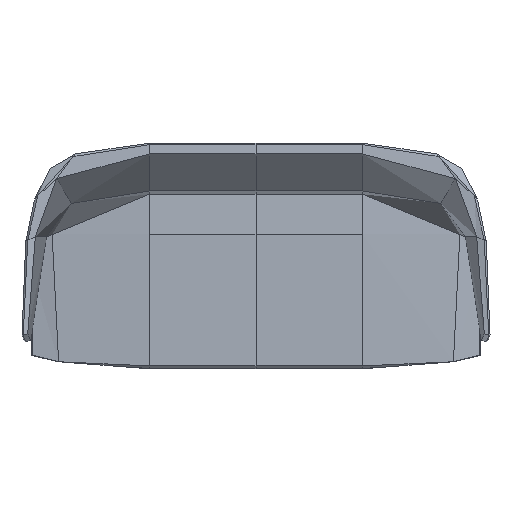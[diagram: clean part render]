
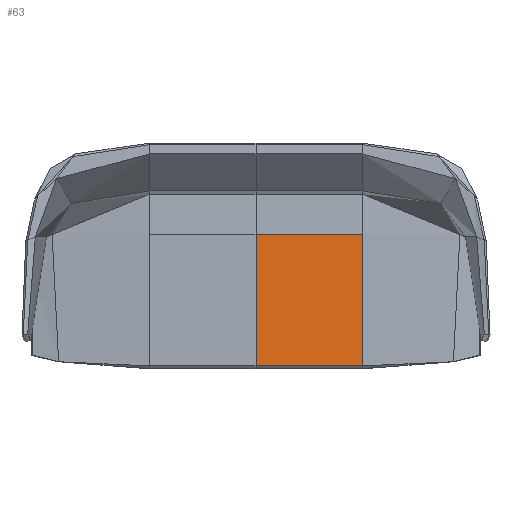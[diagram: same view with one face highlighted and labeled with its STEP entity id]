
A CAD part, top view. The second image highlights one B-rep face of the part: STEP entity #63.
In plain terms, the highlighted free-form (B-spline) face has degree [1, 3] with [2, 14] control points.
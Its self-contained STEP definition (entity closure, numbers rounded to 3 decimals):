
#63=ADVANCED_FACE('',(#185),#1702,.T.);
#185=FACE_OUTER_BOUND('',#307,.T.);
#307=EDGE_LOOP('',(#489,#490,#491,#492));
#489=ORIENTED_EDGE('',*,*,#944,.T.);
#490=ORIENTED_EDGE('',*,*,#947,.T.);
#491=ORIENTED_EDGE('',*,*,#946,.F.);
#492=ORIENTED_EDGE('',*,*,#905,.F.);
#905=EDGE_CURVE('',#1447,#1456,#1178,.T.);
#944=EDGE_CURVE('',#1447,#1476,#1388,.T.);
#946=EDGE_CURVE('',#1456,#1477,#1390,.T.);
#947=EDGE_CURVE('',#1476,#1477,#1391,.T.);
#1178=(
BOUNDED_CURVE()
B_SPLINE_CURVE(3,(#8262,#8263,#8264,#8265,#8266,#8267,#8268,#8269,#8270,
#8271,#8272,#8273,#8274,#8275,#8276,#8277,#8278,#8279,#8280,#8281,#8282,
#8283,#8284,#8285,#8286,#8287,#8288,#8289),.UNSPECIFIED.,.F.,.F.)
B_SPLINE_CURVE_WITH_KNOTS((4,3,3,3,3,3,3,3,3,4),(-3.,-2.938,-2.875,-2.75,
-2.5,-2.,-1.5,-1.,-0.5,0.),.UNSPECIFIED.)
CURVE()
GEOMETRIC_REPRESENTATION_ITEM()
RATIONAL_B_SPLINE_CURVE((1.,1.,1.,1.,1.,1.,
1.,1.,1.,1.,1.,
1.,1.,1.,1.,1.,1.,1.,
1.,1.,1.,1.,
1.,1.,1.,1.,
1.,1.))
REPRESENTATION_ITEM('')
);
#1388=B_SPLINE_CURVE_WITH_KNOTS('',1,(#9053,#9054),.UNSPECIFIED.,.F.,.F.,
(2,2),(0.,340.),.UNSPECIFIED.);
#1390=B_SPLINE_CURVE_WITH_KNOTS('',1,(#9061,#9062),.UNSPECIFIED.,.F.,.F.,
(2,2),(0.,340.),.UNSPECIFIED.);
#1391=B_SPLINE_CURVE_WITH_KNOTS('',3,(#9063,#9064,#9065,#9066,#9067,#9068,
#9069,#9070,#9071,#9072,#9073,#9074,#9075,#9076),.UNSPECIFIED.,.F.,.F.,
(4,2,2,1,1,1,1,1,1,4),(286.233,286.295,286.358,
286.483,286.733,287.233,287.733,288.233,
288.733,289.233),.UNSPECIFIED.);
#1447=VERTEX_POINT('',#8045);
#1456=VERTEX_POINT('',#8054);
#1476=VERTEX_POINT('',#8074);
#1477=VERTEX_POINT('',#8075);
#1702=B_SPLINE_SURFACE_WITH_KNOTS('',1,3,((#4900,#4901,#4902,#4903,#4904,
#4905,#4906,#4907,#4908,#4909,#4910,#4911,#4912,#4913),(#4914,#4915,#4916,
#4917,#4918,#4919,#4920,#4921,#4922,#4923,#4924,#4925,#4926,#4927)),
 .UNSPECIFIED.,.F.,.F.,.F.,(2,2),(4,2,2,1,1,1,1,1,1,4),(0.,340.),(286.233,
286.295,286.358,286.483,286.733,287.233,
287.733,288.233,288.733,289.233),
 .UNSPECIFIED.);
#4900=CARTESIAN_POINT('',(340.,69.271,380.111));
#4901=CARTESIAN_POINT('',(340.,66.606,380.33));
#4902=CARTESIAN_POINT('',(340.,63.95,380.546));
#4903=CARTESIAN_POINT('',(340.,58.645,380.974));
#4904=CARTESIAN_POINT('',(340.,55.997,381.185));
#4905=CARTESIAN_POINT('',(340.,48.051,381.814));
#4906=CARTESIAN_POINT('',(340.,32.16,383.048));
#4907=CARTESIAN_POINT('',(340.,-5.614,385.807));
#4908=CARTESIAN_POINT('',(340.,-65.507,389.689));
#4909=CARTESIAN_POINT('',(340.,-159.501,395.15));
#4910=CARTESIAN_POINT('',(340.,-251.303,400.39));
#4911=CARTESIAN_POINT('',(340.,-316.603,404.385));
#4912=CARTESIAN_POINT('',(340.,-342.297,401.719));
#4913=CARTESIAN_POINT('',(340.,-350.641,397.929));
#4914=CARTESIAN_POINT('',(0.,69.271,380.111));
#4915=CARTESIAN_POINT('',(0.,66.606,380.33));
#4916=CARTESIAN_POINT('',(0.,63.95,380.546));
#4917=CARTESIAN_POINT('',(0.,58.645,380.974));
#4918=CARTESIAN_POINT('',(0.,55.997,381.185));
#4919=CARTESIAN_POINT('',(0.,48.051,381.814));
#4920=CARTESIAN_POINT('',(0.,32.16,383.048));
#4921=CARTESIAN_POINT('',(0.,-5.614,385.807));
#4922=CARTESIAN_POINT('',(0.,-65.507,389.689));
#4923=CARTESIAN_POINT('',(0.,-159.501,395.15));
#4924=CARTESIAN_POINT('',(0.,-251.303,400.39));
#4925=CARTESIAN_POINT('',(0.,-316.603,404.385));
#4926=CARTESIAN_POINT('',(0.,-342.297,401.719));
#4927=CARTESIAN_POINT('',(0.,-350.641,397.929));
#8045=CARTESIAN_POINT('',(340.,69.271,380.111));
#8054=CARTESIAN_POINT('',(340.,-350.641,397.929));
#8074=CARTESIAN_POINT('',(0.,69.271,380.111));
#8075=CARTESIAN_POINT('',(0.,-350.641,397.929));
#8262=CARTESIAN_POINT('',(340.,69.271,380.111));
#8263=CARTESIAN_POINT('',(340.,66.606,380.33));
#8264=CARTESIAN_POINT('',(340.,63.95,380.546));
#8265=CARTESIAN_POINT('',(340.,61.297,380.76));
#8266=CARTESIAN_POINT('',(340.,58.645,380.974));
#8267=CARTESIAN_POINT('',(340.,55.997,381.185));
#8268=CARTESIAN_POINT('',(340.,53.348,381.395));
#8269=CARTESIAN_POINT('',(340.,48.051,381.814));
#8270=CARTESIAN_POINT('',(340.,42.754,382.225));
#8271=CARTESIAN_POINT('',(340.,37.424,382.631));
#8272=CARTESIAN_POINT('',(340.,26.764,383.442));
#8273=CARTESIAN_POINT('',(340.,15.972,384.23));
#8274=CARTESIAN_POINT('',(340.,4.784,385.015));
#8275=CARTESIAN_POINT('',(340.,-17.592,386.583));
#8276=CARTESIAN_POINT('',(340.,-41.55,388.136));
#8277=CARTESIAN_POINT('',(340.,-69.194,389.823));
#8278=CARTESIAN_POINT('',(340.,-96.839,391.509));
#8279=CARTESIAN_POINT('',(340.,-128.17,393.329));
#8280=CARTESIAN_POINT('',(340.,-159.136,395.113));
#8281=CARTESIAN_POINT('',(340.,-190.101,396.896));
#8282=CARTESIAN_POINT('',(340.,-220.702,398.643));
#8283=CARTESIAN_POINT('',(340.,-246.886,400.182));
#8284=CARTESIAN_POINT('',(340.,-273.07,401.722));
#8285=CARTESIAN_POINT('',(340.,-294.836,403.053));
#8286=CARTESIAN_POINT('',(340.,-312.143,403.053));
#8287=CARTESIAN_POINT('',(340.,-329.45,403.052));
#8288=CARTESIAN_POINT('',(340.,-342.297,401.719));
#8289=CARTESIAN_POINT('',(340.,-350.641,397.929));
#9053=CARTESIAN_POINT('',(340.,69.271,380.111));
#9054=CARTESIAN_POINT('',(0.,69.271,380.111));
#9061=CARTESIAN_POINT('',(340.,-350.641,397.929));
#9062=CARTESIAN_POINT('',(0.,-350.641,397.929));
#9063=CARTESIAN_POINT('',(0.,69.271,380.111));
#9064=CARTESIAN_POINT('',(0.,66.606,380.33));
#9065=CARTESIAN_POINT('',(0.,63.95,380.546));
#9066=CARTESIAN_POINT('',(0.,58.645,380.974));
#9067=CARTESIAN_POINT('',(0.,55.997,381.185));
#9068=CARTESIAN_POINT('',(0.,48.051,381.814));
#9069=CARTESIAN_POINT('',(0.,32.16,383.048));
#9070=CARTESIAN_POINT('',(0.,-5.614,385.807));
#9071=CARTESIAN_POINT('',(0.,-65.507,389.689));
#9072=CARTESIAN_POINT('',(0.,-159.501,395.15));
#9073=CARTESIAN_POINT('',(0.,-251.303,400.39));
#9074=CARTESIAN_POINT('',(0.,-316.603,404.385));
#9075=CARTESIAN_POINT('',(0.,-342.297,401.719));
#9076=CARTESIAN_POINT('',(0.,-350.641,397.929));
